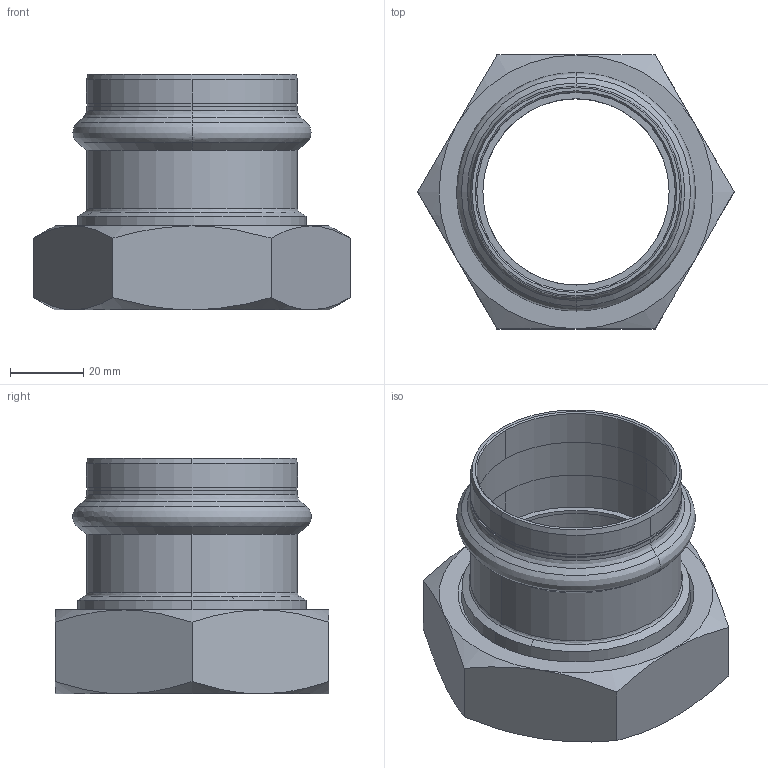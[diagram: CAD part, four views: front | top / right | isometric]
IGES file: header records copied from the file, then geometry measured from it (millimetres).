
Start section: Elysium IGES Interface
Global section: file name: C:\Users\Wallenburg\Desktop\3d modellen sudo\S-Pr VP\SP6359GV\6359GVW54238.igs; native system: CoCreate Modeling 17.00A  17-Jun-2010; preprocessor: CoCreate IGES_3D V2.2; author: Unknown; organization: Unknown; date: 20130124.131149; units: millimetre
Bounding box: 86.6 x 75 x 64.55 mm (x, y, z)
Volume: 61004.3 mm3; surface area: 35294.2 mm2
Topology: 2 solids, 2 shells, 88 faces, 206 edges, 126 vertices
Faces by surface type: bspline 88
